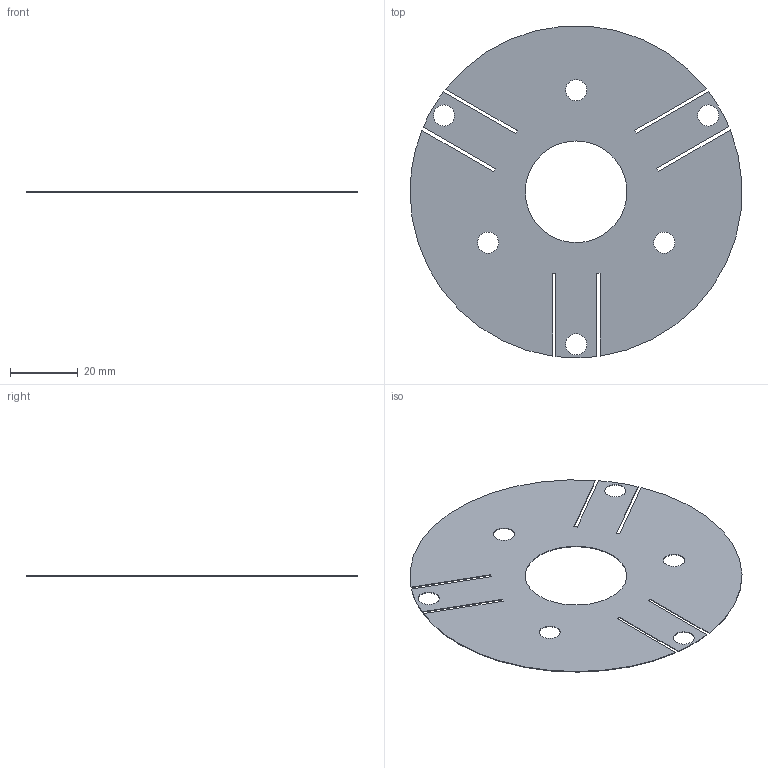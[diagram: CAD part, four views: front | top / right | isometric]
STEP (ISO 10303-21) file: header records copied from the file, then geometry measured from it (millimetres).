
FILE_DESCRIPTION (( 'STEP AP214' ), '1' );
FILE_NAME ('A_Part4.STEP', '2024-06-18T01:34:52', ( '' ), ( '' ), 'SwSTEP 2.0', 'SolidWorks 2023', '' );
FILE_SCHEMA (( 'AUTOMOTIVE_DESIGN' ));
Length unit declared in the file: millimetre
Products named in the file (1): A_Part4
Bounding box: 97.93 x 97.8 x 0.2 mm (x, y, z)
Volume: 1301.3 mm3; surface area: 13176.1 mm2
Topology: 1 solids, 1 shells, 41 faces, 117 edges, 78 vertices
Faces by surface type: cylinder 21, plane 20
Entity records: 1404 total; most frequent: DIRECTION 243, CARTESIAN_POINT 237, ORIENTED_EDGE 234, EDGE_CURVE 117, AXIS2_PLACEMENT_3D 84, VERTEX_POINT 78, LINE 75, VECTOR 75
